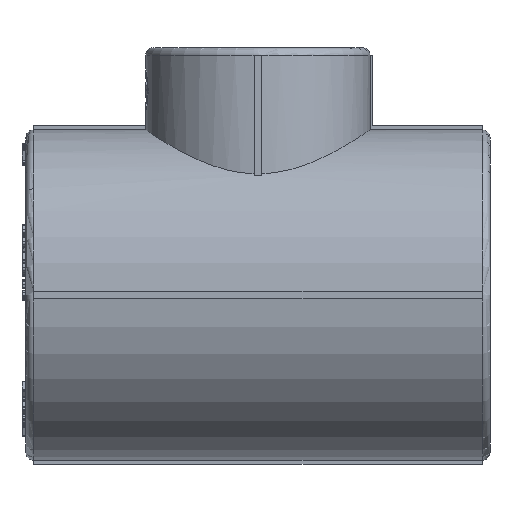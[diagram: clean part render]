
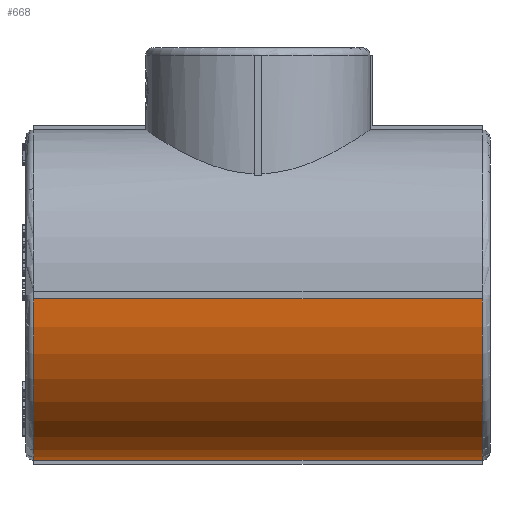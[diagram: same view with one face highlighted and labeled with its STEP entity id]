
A CAD part, left-side view. The second image highlights one B-rep face of the part: STEP entity #668.
In plain terms, the highlighted cylindrical face has radius 21.35 mm (diameter 42.7 mm), a partial arc.
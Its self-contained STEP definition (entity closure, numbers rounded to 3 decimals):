
#668=ADVANCED_FACE('',(#5179),#5181,.T.);
#5179=FACE_BOUND('',#5180,.T.);
#5180=EDGE_LOOP('',(#13161,#13162,#13163,#13164));
#5181=CYLINDRICAL_SURFACE('',#5182,21.35);
#5182=AXIS2_PLACEMENT_3D('',#5183,#5184,#5185);
#5183=CARTESIAN_POINT('',(0.,-30.,0.));
#5184=DIRECTION('',(0.,1.,0.));
#5185=DIRECTION('',(-1.,0.,0.));
#13161=ORIENTED_EDGE('',*,*,#18617,.F.);
#13162=ORIENTED_EDGE('',*,*,#18618,.T.);
#13163=ORIENTED_EDGE('',*,*,#18619,.F.);
#13164=ORIENTED_EDGE('',*,*,#18576,.F.);
#18576=EDGE_CURVE('',#22874,#22876,#22877,.T.);
#18617=EDGE_CURVE('',#22949,#22874,#22950,.T.);
#18618=EDGE_CURVE('',#22949,#22951,#22952,.T.);
#18619=EDGE_CURVE('',#22876,#22951,#22953,.F.);
#22874=VERTEX_POINT('',#31565);
#22876=VERTEX_POINT('',#31570);
#22877=CIRCLE('',#31571,21.35);
#22949=VERTEX_POINT('',#31996);
#22950=LINE('',#31997,#31998);
#22951=VERTEX_POINT('',#32000);
#22952=CIRCLE('',#32001,21.35);
#22953=LINE('',#32005,#32006);
#31565=CARTESIAN_POINT('',(-0.5,29.,-21.344));
#31570=CARTESIAN_POINT('',(-21.344,29.,-0.5));
#31571=AXIS2_PLACEMENT_3D('',#31572,#31573,#31574);
#31572=CARTESIAN_POINT('',(0.,29.,0.));
#31573=DIRECTION('',(0.,1.,0.));
#31574=DIRECTION('',(-0.023,0.,-1.));
#31996=CARTESIAN_POINT('',(-0.5,-29.,-21.344));
#31997=CARTESIAN_POINT('',(-0.5,-29.,-21.344));
#31998=VECTOR('',#31999,1.);
#31999=DIRECTION('',(0.,1.,0.));
#32000=CARTESIAN_POINT('',(-21.344,-29.,-0.5));
#32001=AXIS2_PLACEMENT_3D('',#32002,#32003,#32004);
#32002=CARTESIAN_POINT('',(0.,-29.,0.));
#32003=DIRECTION('',(0.,1.,0.));
#32004=DIRECTION('',(-0.023,0.,-1.));
#32005=CARTESIAN_POINT('',(-21.344,-29.,-0.5));
#32006=VECTOR('',#32007,1.);
#32007=DIRECTION('',(0.,1.,0.));
